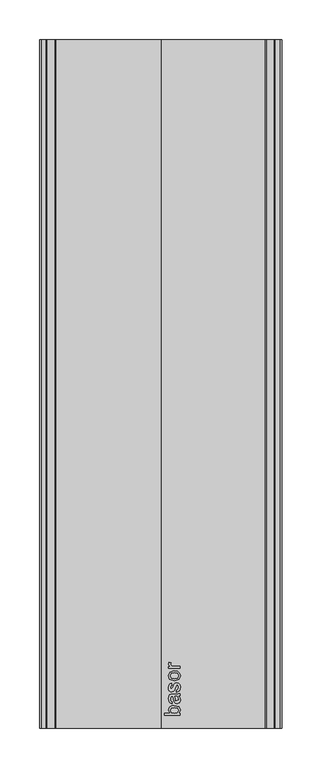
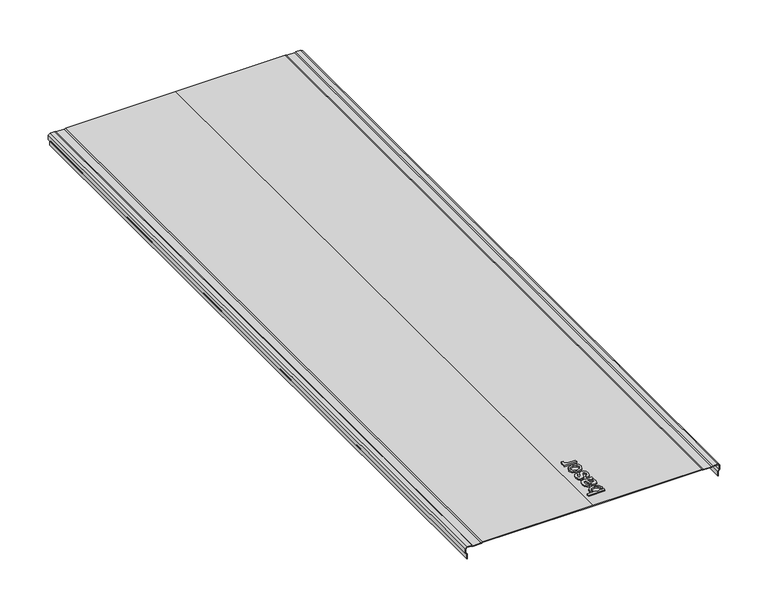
"""IFC4 building model written with IfcOpenShell, lengths in millimetres: proxy geometry, Cable_Tray_Cover_T ERE_Basortray : Basortray T ERE-GS-300."""

from ifc_helpers import new_model, si_unit, frame, origin, place, context, project, spatial, polyline, outline, extrude, source, transform, mapped, element, save


def generic_models_92a7ed6a(model_context):
    return source(origin(), model_context, "Body", "SweptSolid", [
        extrude(outline(polyline([(24.2687727, 18.6754203), (24.2687727, 16.2138818), (4.576465, 16.2138818), (4.576465, 18.6754203), (11.8793496, 18.6754203), (9.4995419, 22.5408049), (10.0355996, 25.0071511), (11.5428111, 26.9206126), (13.8865611, 28.0960934), (16.8216573, 28.5215741), (22.5524265, 26.7595549), (24.576465, 22.5263818), (21.9658881, 18.6754203), (24.2687727, 18.6754203)]), holes=[polyline([(16.9370419, 18.6754203), (20.3793496, 19.3484972), (22.1149265, 22.3148434), (20.8360804, 24.9494588), (17.0235804, 26.0600357), (13.1966573, 24.9951318), (11.9610804, 22.4206126), (13.2399265, 19.7859972), (16.9370419, 18.6754203)])]), frame((0.0, 0.0, 0.8), z_axis=(0.0, 0.0, 1.0), x_axis=(1.0, 0.0, 0.0)), (0.0, 0.0, 1.0), 1.65),
        extrude(outline(polyline([(22.4226188, 40.5215741), (24.0908881, 38.1345549), (24.576465, 35.4975357), (23.4081957, 31.9230165), (20.4226188, 30.6754203), (18.4755034, 31.1465741), (17.0620419, 32.3845549), (16.2543496, 34.1081126), (15.8841573, 36.2379203), (15.0380034, 40.5071511), (12.6726188, 39.8436895), (11.9610804, 37.1225357), (12.4346381, 34.6321511), (14.1149265, 33.4446511), (13.8072342, 30.9831126), (11.4033881, 32.0480165), (9.9947342, 34.1922472), (9.4995419, 37.4398434), (9.9370419, 40.4230165), (11.0355996, 42.1081126), (12.7062727, 42.8629203), (14.8601188, 42.9831126), (17.9226188, 42.9831126), (22.1990611, 43.1081126), (24.2687727, 43.5984972), (24.2687727, 41.1369588), (22.4226188, 40.5215741)]), holes=[polyline([(17.8480996, 40.5143626), (18.2543496, 36.5504203), (18.6533881, 34.4326318), (22.1149265, 36.0215741), (21.5259842, 38.5119588), (20.1005034, 40.117728), (17.8480996, 40.5143626)])]), frame((0.0, 0.0, 0.8), z_axis=(0.0, 0.0, 1.0), x_axis=(1.0, 0.0, 0.0)), (0.0, 0.0, 1.0), 1.65),
        extrude(outline(polyline([(19.9610804, 45.4446511), (19.6533881, 47.9061895), (21.4803111, 49.0456126), (22.1149265, 51.6561895), (21.5331957, 54.1658049), (20.1678111, 54.9831126), (18.3601188, 51.6273434), (17.1557919, 47.9206126), (15.7495419, 46.3028241), (13.763965, 45.7523434), (11.9298304, 46.1946511), (10.5283881, 47.4013818), (9.8000227, 48.9662857), (9.4995419, 51.0840741), (9.982715, 54.0792665), (11.2904073, 55.9831126), (13.4995419, 56.8292665), (13.8072342, 54.367728), (12.4490611, 53.4422472), (11.9610804, 51.2763818), (12.4274265, 48.9206126), (15.2976188, 51.5456126), (16.4562727, 55.1585934), (17.7687727, 56.836478), (19.9081957, 57.4446511), (22.263965, 56.7307088), (23.9730996, 54.6706126), (24.576465, 51.6225357), (23.4130034, 47.3292665), (19.9610804, 45.4446511)])), frame((0.0, 0.0, 0.8), z_axis=(0.0, 0.0, 1.0), x_axis=(1.0, 0.0, 0.0)), (0.0, 0.0, 1.0), 1.65),
        extrude(outline(polyline([(17.0380034, 59.5984972), (11.1005034, 61.7283049), (9.4995419, 66.0648434), (11.4490611, 70.7162857), (16.8360804, 72.5215741), (21.2158881, 71.7234972), (23.6942534, 69.398978), (24.576465, 66.0648434), (22.6341573, 61.3845549), (17.0380034, 59.5984972)]), holes=[polyline([(17.0331957, 62.0600357), (20.8480996, 63.1994588), (22.1149265, 66.0648434), (20.8408881, 68.9206126), (16.9562727, 70.0600357), (13.2279073, 68.9134011), (11.9610804, 66.0648434), (13.2230996, 63.1994588), (17.0331957, 62.0600357)])]), frame((0.0, 0.0, 0.8), z_axis=(0.0, 0.0, 1.0), x_axis=(1.0, 0.0, 0.0)), (0.0, 0.0, 1.0), 1.65),
        extrude(outline(polyline([(24.2687727, 75.2908049), (9.8072342, 75.2908049), (9.8072342, 77.4446511), (11.9466573, 77.4446511), (9.9755034, 78.9734972), (9.4995419, 80.5119588), (10.2591573, 82.9831126), (12.4658881, 82.1609972), (11.9610804, 80.430228), (13.7928111, 78.1513818), (16.6678111, 77.7523434), (24.2687727, 77.7523434), (24.2687727, 75.2908049)])), frame((0.0, 0.0, 0.8), z_axis=(0.0, 0.0, 1.0), x_axis=(1.0, 0.0, 0.0)), (0.0, 0.0, 1.0), 1.65),
        extrude(outline(polyline([(-8.1224226, -150.0), (-6.2735524, -151.8488702), (-1.2735524, -151.8488702), (0.0, -150.0), (0.0, -144.6499642), (-0.8, -143.1329764), (-0.8, -133.0388061), (0.0, -131.5218184), (0.0, 0.0), (0.0, 131.5218184), (-0.8, 133.0388061), (-0.8, 143.1329764), (0.0, 144.6499642), (0.0, 150.0), (-1.2735524, 151.8488702), (-6.2735524, 151.8488702), (-8.1224226, 150.0), (-14.2, 150.0), (-14.2, 150.8), (-8.4537934, 150.8), (-6.6049233, 152.6488702), (-0.8531879, 152.6488702), (0.8, 150.248867), (0.8, 144.4519441), (0.0, 142.9349563), (0.0, 133.2368262), (0.8, 131.7198384), (0.8, 0.0), (0.8, -131.7198384), (0.0, -133.2368262), (0.0, -142.9349563), (0.8, -144.4519441), (0.8, -150.248867), (-0.8531879, -152.6488702), (-6.6049233, -152.6488702), (-8.4537934, -150.8), (-14.2, -150.8), (-14.2, -150.0), (-8.1224226, -150.0)])), frame((0.0, 0.0, 0.0), z_axis=(0.0, 1.0, 0.0), x_axis=(0.0, 0.0, 1.0)), (0.0, 0.0, 1.0), 866.0),
    ])


if __name__ == "__main__":
    model = new_model("IFC4")
    model_context = context("Model", 3, world=origin())
    ifc_project = project(units=[si_unit("LENGTHUNIT", "METRE", prefix="MILLI")], contexts=[model_context])
    site = spatial("IfcSite", under=ifc_project)
    building = spatial("IfcBuilding", under=site)
    placement = place(None, origin())
    generic_models_shape = generic_models_92a7ed6a(model_context)
    element("IfcBuildingElementProxy", 1, Name="Cable_Tray_Cover_T ERE_Basortray : Basortray T ERE-GS-300", ObjectType="Cable_Tray_Cover_T ERE_Basortray : Basortray T ERE-GS-300", at=placement, inside=building, context=model_context, shape_type="MappedRepresentation", body=[
        mapped(generic_models_shape, transform((0.0, 0.0, 0.0), x_axis=(1.0, 0.0, 0.0), y_axis=(0.0, 1.0, 0.0), z_axis=(0.0, 0.0, 1.0))),
    ])
    save(model, "model.ifc")
